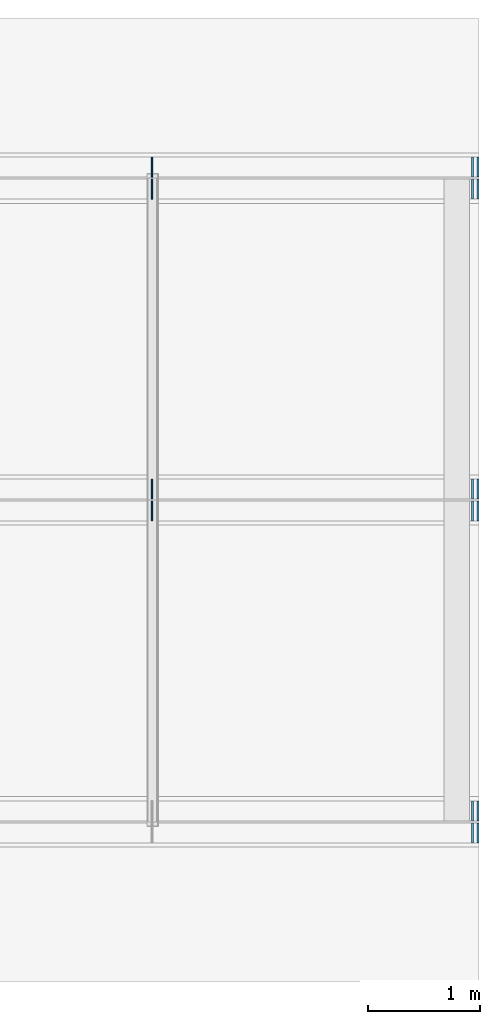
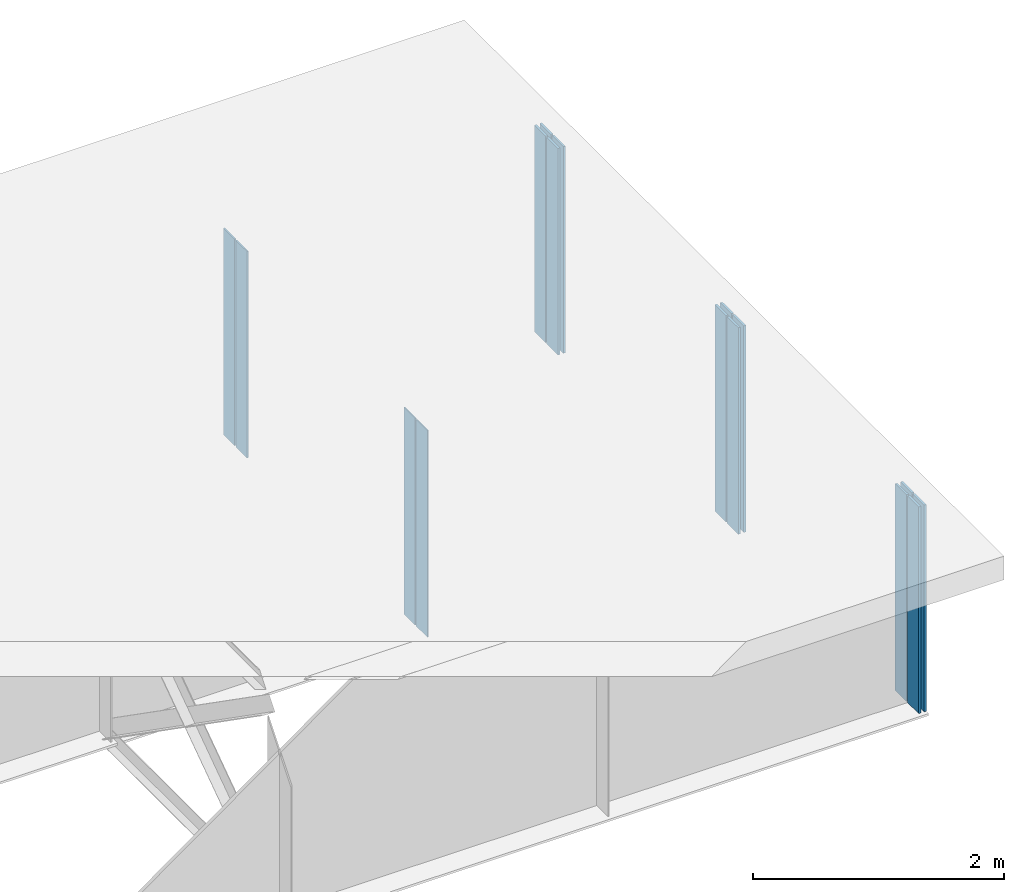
# One storey, part 11 of 11: 16 plates.
"""IFC4 building model written with IfcOpenShell, lengths in metres."""

from ifc_helpers import new_model, si_unit, frame, origin, origin_with_axes, origin_2d_with_axis, place, context, subcontext, project, spatial, rectangle, extrude, element, save


model = new_model("IFC4")

# Units and contexts
model_context = context("Model", 3, precision=1e-05, world=origin())
body_context = subcontext(model_context, "Body", "Model", "MODEL_VIEW")
ifc_project = project(units=[si_unit("LENGTHUNIT", "METRE"), si_unit("AREAUNIT", "SQUARE_METRE"), si_unit("VOLUMEUNIT", "CUBIC_METRE"), si_unit("PLANEANGLEUNIT", "RADIAN")], contexts=[model_context])

# Site, building, storey
site_placement = place(None, origin_with_axes())
site = spatial("IfcSite", under=ifc_project, at=site_placement, Name="Default Site")
building_placement = place(site_placement, origin_with_axes())
building = spatial("IfcBuilding", under=site, at=building_placement, Name="Bridge Structure")
storey_placement = place(building_placement, origin_with_axes())
storey = spatial("IfcBuildingStorey", under=building, at=storey_placement, Name="Superstructure")

# Plates
for number, where, z_axis, x_axis, name in (
    (1, (34.99, -2.7767500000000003, -1.005), (0.0, 0.0, 1.0), (1.0, 0.0, 0.0), "End Stiffener 1"),
    (2, (34.99, -2.97325, -1.005), (0.0, 0.0, 1.0), (1.0, 0.0, 0.0), "End Stiffener 1"),
    (3, (34.94, -2.7767500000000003, -1.005), (0.0, 0.0, 1.0), (1.0, 0.0, 0.0), "End Stiffener 1"),
    (4, (34.94, -2.97325, -1.005), (0.0, 0.0, 1.0), (1.0, 0.0, 0.0), "End Stiffener 1"),
):
    element("IfcPlate", number, at=place(storey_placement, frame(where, z_axis=z_axis, x_axis=x_axis)), inside=storey, Name=name, context=body_context, shape_type="SweptSolid", body=[
        extrude(rectangle(XDim=0.02, YDim=0.1785, at=origin_2d_with_axis()), origin_with_axes(), (0.0, 0.0, 1.0), 2.01),
    ])
for number, where, z_axis, x_axis, name in (
    (5, (32.076, 0.09825, -1.005), (0.0, 0.0, 1.0), (1.0, 0.0, 0.0), "Intermediate Stiffener 2"),
    (6, (32.076, -0.09825, -1.005), (0.0, 0.0, 1.0), (1.0, 0.0, 0.0), "Intermediate Stiffener 2"),
):
    element("IfcPlate", number, at=place(storey_placement, frame(where, z_axis=z_axis, x_axis=x_axis)), inside=storey, Name=name, context=body_context, shape_type="SweptSolid", body=[
        extrude(rectangle(XDim=0.012, YDim=0.1785, at=origin_2d_with_axis()), origin_with_axes(), (0.0, 0.0, 1.0), 2.01),
    ])
for number, where, z_axis, x_axis, name in (
    (7, (34.99, 0.09825, -1.005), (0.0, 0.0, 1.0), (1.0, 0.0, 0.0), "End Stiffener 2"),
    (8, (34.99, -0.09825, -1.005), (0.0, 0.0, 1.0), (1.0, 0.0, 0.0), "End Stiffener 2"),
    (9, (34.94, 0.09825, -1.005), (0.0, 0.0, 1.0), (1.0, 0.0, 0.0), "End Stiffener 2"),
    (10, (34.94, -0.09825, -1.005), (0.0, 0.0, 1.0), (1.0, 0.0, 0.0), "End Stiffener 2"),
):
    element("IfcPlate", number, at=place(storey_placement, frame(where, z_axis=z_axis, x_axis=x_axis)), inside=storey, Name=name, context=body_context, shape_type="SweptSolid", body=[
        extrude(rectangle(XDim=0.02, YDim=0.1785, at=origin_2d_with_axis()), origin_with_axes(), (0.0, 0.0, 1.0), 2.01),
    ])
for number, where, z_axis, x_axis, name in (
    (11, (32.076, 2.97325, -1.005), (0.0, 0.0, 1.0), (1.0, 0.0, 0.0), "Intermediate Stiffener 3"),
    (12, (32.076, 2.7767500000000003, -1.005), (0.0, 0.0, 1.0), (1.0, 0.0, 0.0), "Intermediate Stiffener 3"),
):
    element("IfcPlate", number, at=place(storey_placement, frame(where, z_axis=z_axis, x_axis=x_axis)), inside=storey, Name=name, context=body_context, shape_type="SweptSolid", body=[
        extrude(rectangle(XDim=0.012, YDim=0.1785, at=origin_2d_with_axis()), origin_with_axes(), (0.0, 0.0, 1.0), 2.01),
    ])
for number, where, z_axis, x_axis, name in (
    (13, (34.99, 2.97325, -1.005), (0.0, 0.0, 1.0), (1.0, 0.0, 0.0), "End Stiffener 3"),
    (14, (34.99, 2.7767500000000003, -1.005), (0.0, 0.0, 1.0), (1.0, 0.0, 0.0), "End Stiffener 3"),
    (15, (34.94, 2.97325, -1.005), (0.0, 0.0, 1.0), (1.0, 0.0, 0.0), "End Stiffener 3"),
    (16, (34.94, 2.7767500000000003, -1.005), (0.0, 0.0, 1.0), (1.0, 0.0, 0.0), "End Stiffener 3"),
):
    element("IfcPlate", number, at=place(storey_placement, frame(where, z_axis=z_axis, x_axis=x_axis)), inside=storey, Name=name, context=body_context, shape_type="SweptSolid", body=[
        extrude(rectangle(XDim=0.02, YDim=0.1785, at=origin_2d_with_axis()), origin_with_axes(), (0.0, 0.0, 1.0), 2.01),
    ])

save(model, "model.ifc")
